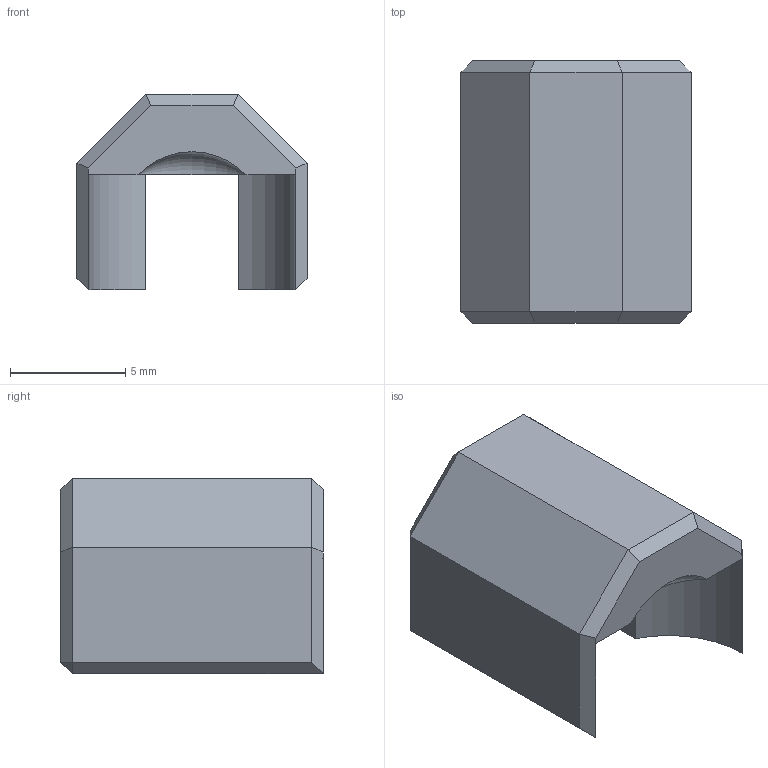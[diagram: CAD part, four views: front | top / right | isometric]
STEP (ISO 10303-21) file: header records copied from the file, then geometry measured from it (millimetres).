
FILE_DESCRIPTION (( 'STEP AP214' ), '1' );
FILE_NAME ('Neck ArmorA1.STEP', '2023-12-26T22:38:29', ( '' ), ( '' ), 'SwSTEP 2.0', 'SolidWorks 2023', '' );
FILE_SCHEMA (( 'AUTOMOTIVE_DESIGN' ));
Length unit declared in the file: millimetre
Products named in the file (1): Neck ArmorA1
Bounding box: 10 x 11.4 x 8.5 mm (x, y, z)
Volume: 539.4 mm3; surface area: 586.3 mm2
Topology: 1 solids, 1 shells, 39 faces, 88 edges, 50 vertices
Faces by surface type: plane 36, cylinder 2, torus 1
Entity records: 1053 total; most frequent: CARTESIAN_POINT 176, DIRECTION 172, ORIENTED_EDGE 172, EDGE_CURVE 86, VECTOR 80, LINE 80, VERTEX_POINT 50, AXIS2_PLACEMENT_3D 46
